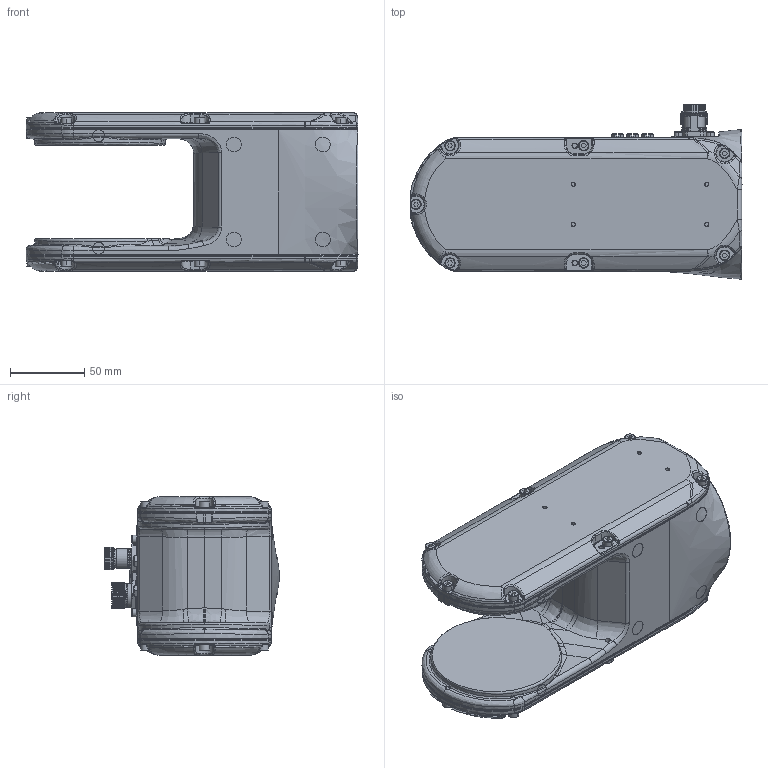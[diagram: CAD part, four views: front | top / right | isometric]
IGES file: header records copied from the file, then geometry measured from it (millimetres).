
Start section:  PTC IGES file: r-axis_view_yr-n1-06vx4-c00.igs
Global section: file name: r-axis_view_yr-n1-06vx4-c00.igs; native system: Creo Parametric by PTC Inc.; preprocessor: 2021072; author: iino20; organization: Unknown; date: 20250827.163359; units: millimetre
Bounding box: 223.75 x 117.41 x 106.6 mm (x, y, z)
Volume: 1383606.8 mm3; surface area: 109515.4 mm2
Topology: 1 solids, 1 shells, 1737 faces, 4364 edges, 2677 vertices
Faces by surface type: bspline 1087, revolution 650
